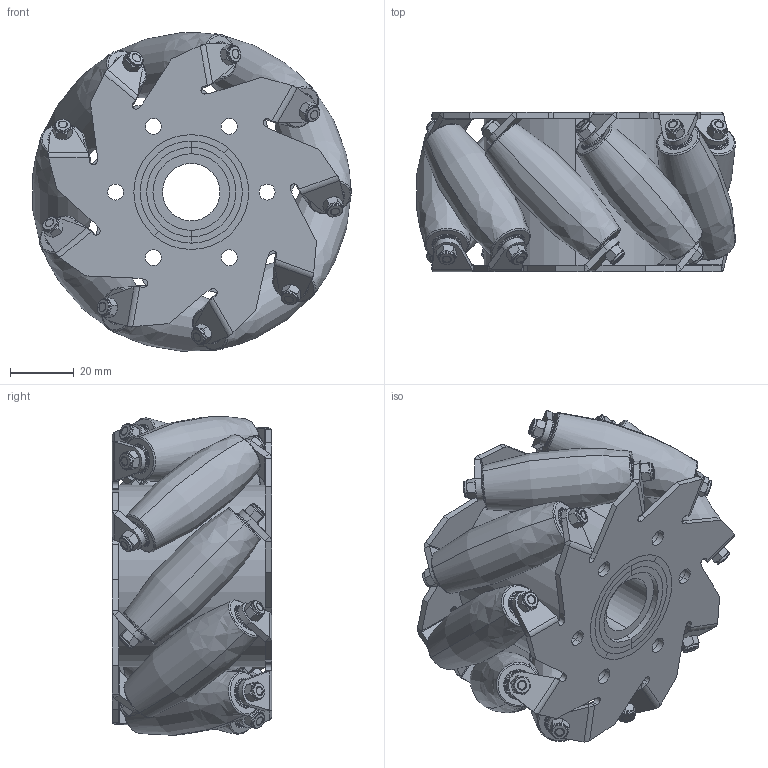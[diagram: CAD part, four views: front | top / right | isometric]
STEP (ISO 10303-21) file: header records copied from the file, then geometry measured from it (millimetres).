
FILE_DESCRIPTION(('Open CASCADE Model'),'2;1');
FILE_NAME('Open CASCADE Shape Model','2026-10-15T14:08:36',('Author'),( 'Open CASCADE'),'Open CASCADE STEP processor 7.7','Open CASCADE 7.7' ,'Unknown');
FILE_SCHEMA(('AUTOMOTIVE_DESIGN { 1 0 10303 214 1 1 1 1 }'));
Length unit declared in the file: millimetre
Products named in the file (84): Open CASCADE STEP translator 7.7 2; Open CASCADE STEP translator 7.7 2.1; Open CASCADE STEP translator 7.7 2.2; Open CASCADE STEP translator 7.7 2.3; Open CASCADE STEP translator 7.7 2.4; Open CASCADE STEP translator 7.7 2.5; Open CASCADE STEP translator 7.7 2.6; Open CASCADE STEP translator 7.7 2.7; Open CASCADE STEP translator 7.7 2.8; Open CASCADE STEP translator 7.7 2.9; Open CASCADE STEP translator 7.7 2.10; Open CASCADE STEP translator 7.7 2.11; Open CASCADE STEP translator 7.7 2.12; Open CASCADE STEP translator 7.7 2.13; Open CASCADE STEP translator 7.7 2.14; Open CASCADE STEP translator 7.7 2.15; Open CASCADE STEP translator 7.7 2.16; Open CASCADE STEP translator 7.7 2.17; Open CASCADE STEP translator 7.7 2.18; Open CASCADE STEP translator 7.7 2.19; Open CASCADE STEP translator 7.7 2.20; Open CASCADE STEP translator 7.7 2.21; Open CASCADE STEP translator 7.7 2.22; Open CASCADE STEP translator 7.7 2.23; Open CASCADE STEP translator 7.7 2.24; Open CASCADE STEP translator 7.7 2.25; Open CASCADE STEP translator 7.7 2.26; Open CASCADE STEP translator 7.7 2.27; Open CASCADE STEP translator 7.7 2.28; Open CASCADE STEP translator 7.7 2.29; Open CASCADE STEP translator 7.7 2.30; Open CASCADE STEP translator 7.7 2.31; Open CASCADE STEP translator 7.7 2.32; Open CASCADE STEP translator 7.7 2.33; Open CASCADE STEP translator 7.7 2.34; Open CASCADE STEP translator 7.7 2.35; Open CASCADE STEP translator 7.7 2.36; Open CASCADE STEP translator 7.7 2.37; Open CASCADE STEP translator 7.7 2.38; Open CASCADE STEP translator 7.7 2.39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
Assembly tree (83 placements, depth 2):
  Open CASCADE STEP translator 7.7 2
    Open CASCADE STEP translator 7.7 2.1
    Open CASCADE STEP translator 7.7 2.2
    Open CASCADE STEP translator 7.7 2.3
    Open CASCADE STEP translator 7.7 2.4
    Open CASCADE STEP translator 7.7 2.5
    Open CASCADE STEP translator 7.7 2.6
    Open CASCADE STEP translator 7.7 2.7
    Open CASCADE STEP translator 7.7 2.8
    Open CASCADE STEP translator 7.7 2.9
    Open CASCADE STEP translator 7.7 2.10
    Open CASCADE STEP translator 7.7 2.11
    Open CASCADE STEP translator 7.7 2.12
    Open CASCADE STEP translator 7.7 2.13
    Open CASCADE STEP translator 7.7 2.14
    Open CASCADE STEP translator 7.7 2.15
    Open CASCADE STEP translator 7.7 2.16
    Open CASCADE STEP translator 7.7 2.17
    Open CASCADE STEP translator 7.7 2.18
    Open CASCADE STEP translator 7.7 2.19
    Open CASCADE STEP translator 7.7 2.20
    Open CASCADE STEP translator 7.7 2.21
    Open CASCADE STEP translator 7.7 2.22
    Open CASCADE STEP translator 7.7 2.23
    Open CASCADE STEP translator 7.7 2.24
    Open CASCADE STEP translator 7.7 2.25
    Open CASCADE STEP translator 7.7 2.26
    Open CASCADE STEP translator 7.7 2.27
    Open CASCADE STEP translator 7.7 2.28
    Open CASCADE STEP translator 7.7 2.29
    Open CASCADE STEP translator 7.7 2.30
    Open CASCADE STEP translator 7.7 2.31
    Open CASCADE STEP translator 7.7 2.32
    Open CASCADE STEP translator 7.7 2.33
    Open CASCADE STEP translator 7.7 2.34
    Open CASCADE STEP translator 7.7 2.35
    Open CASCADE STEP translator 7.7 2.36
    Open CASCADE STEP translator 7.7 2.37
    Open CASCADE STEP translator 7.7 2.38
    Open CASCADE STEP translator 7.7 2.39
    Open CASCADE STEP translator 7.7 2.40
    Open CASCADE STEP translator 7.7 2.41
    Open CASCADE STEP translator 7.7 2.42
    Open CASCADE STEP translator 7.7 2.43
    Open CASCADE STEP translator 7.7 2.44
    Open CASCADE STEP translator 7.7 2.45
    Open CASCADE STEP translator 7.7 2.46
    Open CASCADE STEP translator 7.7 2.47
    Open CASCADE STEP translator 7.7 2.48
    Open CASCADE STEP translator 7.7 2.49
    Open CASCADE STEP translator 7.7 2.50
    Open CASCADE STEP translator 7.7 2.51
    Open CASCADE STEP translator 7.7 2.52
    Open CASCADE STEP translator 7.7 2.53
    Open CASCADE STEP translator 7.7 2.54
    Open CASCADE STEP translator 7.7 2.55
    Open CASCADE STEP translator 7.7 2.56
    Open CASCADE STEP translator 7.7 2.57
    Open CASCADE STEP translator 7.7 2.58
    Open CASCADE STEP translator 7.7 2.59
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Bounding box: 99.92 x 49.99 x 99.87 mm (x, y, z)
Volume: 223695.8 mm3; surface area: 96649.7 mm2
Topology: 83 solids, 83 shells, 1574 faces, 3419 edges, 2028 vertices
Faces by surface type: cylinder 508, cone 504, plane 472, bspline 36, torus 36, revolution 18
Entity records: 105994 total; most frequent: CARTESIAN_POINT 36238, DIRECTION 12886, ORIENTED_EDGE 6832, PCURVE 6832, DEFINITIONAL_REPRESENTATION 6832, LINE 6198, VECTOR 6198, EDGE_CURVE 3416
